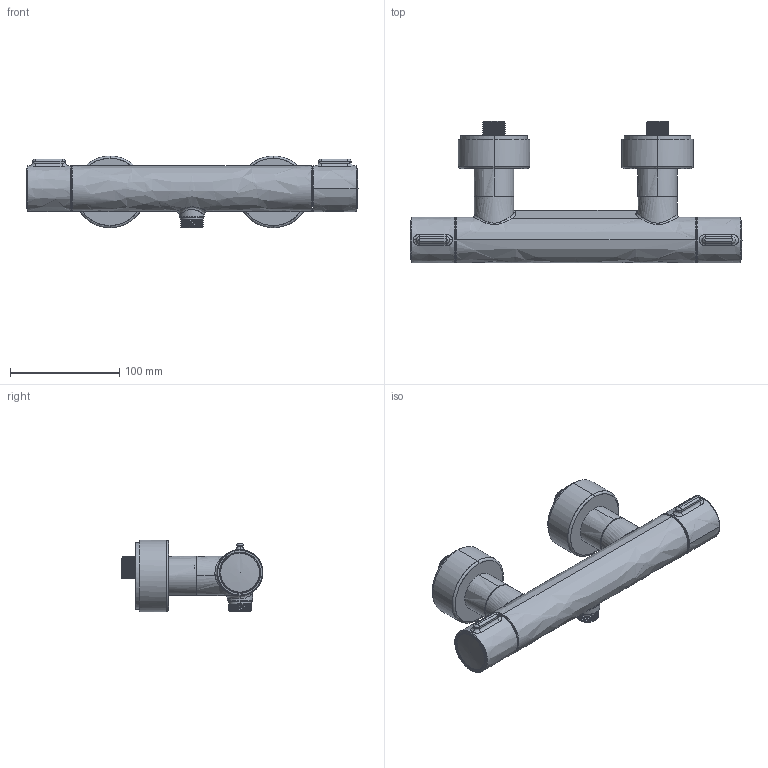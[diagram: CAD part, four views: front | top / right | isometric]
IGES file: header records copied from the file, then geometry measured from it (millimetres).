
Global section: file name: d:\users\matthias.isele\Desktop\Planungsdaten_erstellen\Armaturen\Wave\WA4220000C10_WA4220000C46\3D\WA4220000C10_WA4220000C46.igs; native system: Rhinoceros ( Sep 13 2016 ); preprocessor: Trout Lake IGES 012 Sep 13 2016; date: 230113.065943; units: millimetre
Bounding box: 304.25 x 130 x 65.85 mm (x, y, z)
Surface area: 126229.6 mm2 (no closed solid volume)
Topology: 0 solids, 0 shells, 8089 faces, 60212 edges, 60210 vertices
Faces by surface type: bspline 8089
